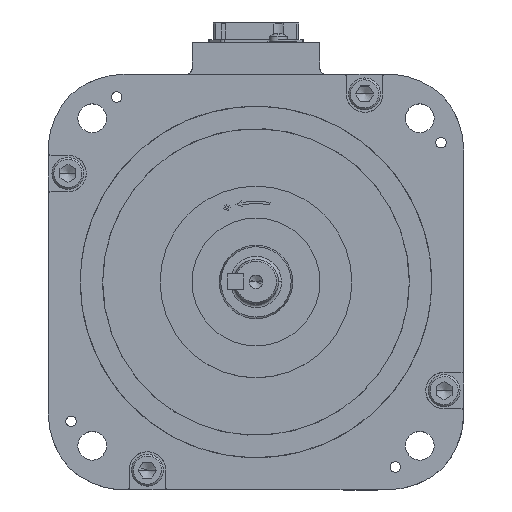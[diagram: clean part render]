
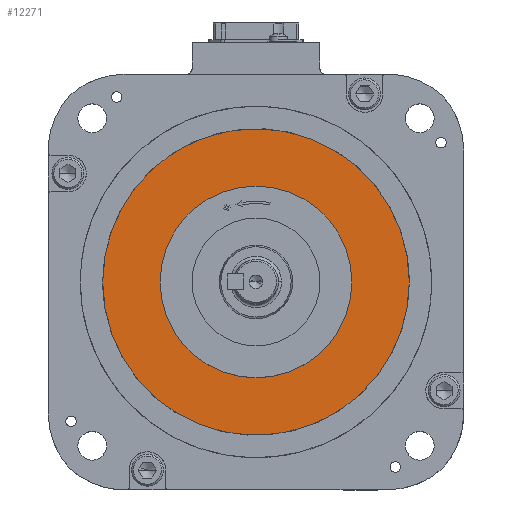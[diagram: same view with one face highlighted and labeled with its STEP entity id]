
A CAD part, top view. The second image highlights one B-rep face of the part: STEP entity #12271.
In plain terms, the highlighted planar face has unit normal (0, 0, 1).
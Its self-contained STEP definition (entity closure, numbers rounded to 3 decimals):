
#2371 = CARTESIAN_POINT ( 'NONE',  ( 30., 0., 0. ) ) ;
#6748 = AXIS2_PLACEMENT_3D ( 'NONE', #19993, #34609, #63509 ) ;
#7647 = FACE_OUTER_BOUND ( 'NONE', #59223, .T. ) ;
#9673 = ORIENTED_EDGE ( 'NONE', *, *, #16108, .F. ) ;
#11012 = EDGE_CURVE ( 'NONE', #49090, #52895, #59243, .T. ) ;
#11999 = ORIENTED_EDGE ( 'NONE', *, *, #54130, .F. ) ;
#12271 = ADVANCED_FACE ( 'NONE', ( #7647, #47257 ), #22553, .F. ) ;
#12500 = AXIS2_PLACEMENT_3D ( 'NONE', #26985, #36104, #56543 ) ;
#12844 = DIRECTION ( 'NONE',  ( -1., 0., 0. ) ) ;
#16108 = EDGE_CURVE ( 'NONE', #41896, #28081, #40966, .T. ) ;
#17648 = CARTESIAN_POINT ( 'NONE',  ( -30., 0., 0. ) ) ;
#17707 = DIRECTION ( 'NONE',  ( 0., 0., -1. ) ) ;
#19993 = CARTESIAN_POINT ( 'NONE',  ( 0., 0., 0. ) ) ;
#21928 = EDGE_LOOP ( 'NONE', ( #9673, #11999 ) ) ;
#22553 = PLANE ( 'NONE',  #54223 ) ;
#23647 = ORIENTED_EDGE ( 'NONE', *, *, #11012, .F. ) ;
#24540 = ORIENTED_EDGE ( 'NONE', *, *, #50001, .F. ) ;
#26630 = DIRECTION ( 'NONE',  ( 0., 0., -1. ) ) ;
#26657 = CARTESIAN_POINT ( 'NONE',  ( -48., 0.001, 0. ) ) ;
#26985 = CARTESIAN_POINT ( 'NONE',  ( 0., 0., 0. ) ) ;
#26987 = CIRCLE ( 'NONE', #12500, 30. ) ;
#28081 = VERTEX_POINT ( 'NONE', #17648 ) ;
#28748 = DIRECTION ( 'NONE',  ( -1., 0., 0. ) ) ;
#32118 = DIRECTION ( 'NONE',  ( -1., 0., 0. ) ) ;
#34609 = DIRECTION ( 'NONE',  ( 0., 0., 1. ) ) ;
#36104 = DIRECTION ( 'NONE',  ( 0., 0., 1. ) ) ;
#40283 = CIRCLE ( 'NONE', #59986, 47.999 ) ;
#40752 = CARTESIAN_POINT ( 'NONE',  ( 47.998, 0.001, 0. ) ) ;
#40966 = CIRCLE ( 'NONE', #6748, 30. ) ;
#41896 = VERTEX_POINT ( 'NONE', #2371 ) ;
#44020 = DIRECTION ( 'NONE',  ( 0., 0., -1. ) ) ;
#47257 = FACE_BOUND ( 'NONE', #21928, .T. ) ;
#49090 = VERTEX_POINT ( 'NONE', #40752 ) ;
#50001 = EDGE_CURVE ( 'NONE', #52895, #49090, #40283, .T. ) ;
#52895 = VERTEX_POINT ( 'NONE', #26657 ) ;
#54130 = EDGE_CURVE ( 'NONE', #28081, #41896, #26987, .T. ) ;
#54223 = AXIS2_PLACEMENT_3D ( 'NONE', #62169, #17707, #12844 ) ;
#56543 = DIRECTION ( 'NONE',  ( 1., 0., 0. ) ) ;
#57132 = CARTESIAN_POINT ( 'NONE',  ( -0.001, 0.001, 0. ) ) ;
#58610 = CARTESIAN_POINT ( 'NONE',  ( -0.001, 0.001, 0. ) ) ;
#59223 = EDGE_LOOP ( 'NONE', ( #24540, #23647 ) ) ;
#59243 = CIRCLE ( 'NONE', #60333, 47.999 ) ;
#59986 = AXIS2_PLACEMENT_3D ( 'NONE', #57132, #26630, #32118 ) ;
#60333 = AXIS2_PLACEMENT_3D ( 'NONE', #58610, #44020, #28748 ) ;
#62169 = CARTESIAN_POINT ( 'NONE',  ( 57.998, -93.135, 0. ) ) ;
#63509 = DIRECTION ( 'NONE',  ( 1., 0., 0. ) ) ;
